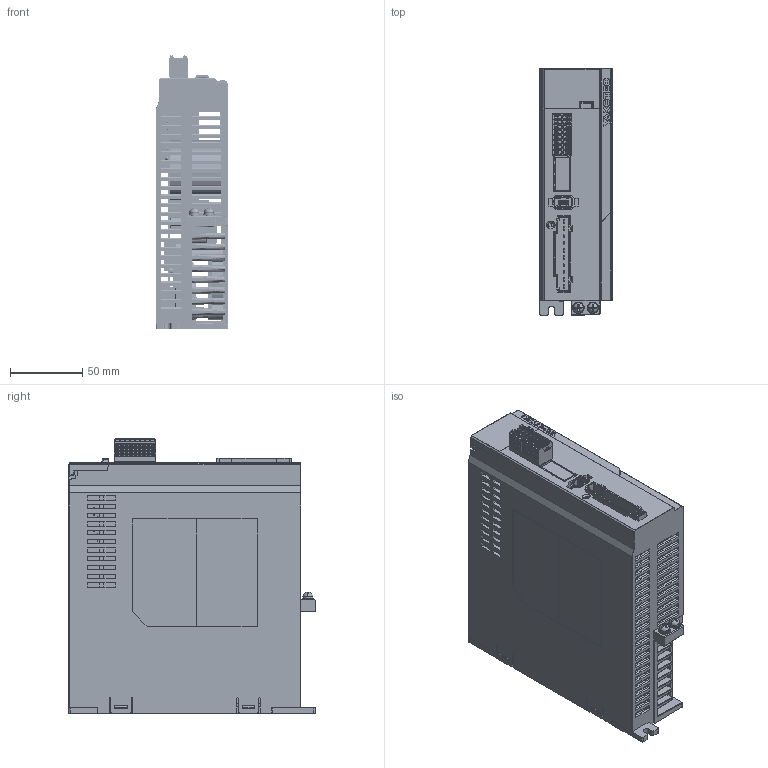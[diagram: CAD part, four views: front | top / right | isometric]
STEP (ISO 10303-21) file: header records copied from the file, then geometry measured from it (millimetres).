
FILE_DESCRIPTION((''),'2;1');
FILE_NAME('AS3-10BAI','2025-08-20T17:27:30',('Admin'),(''),'CREO PARAMETRIC BY PTC INC, 2020074','CREO PARAMETRIC BY PTC INC, 2020074','');
FILE_SCHEMA(('CONFIG_CONTROL_DESIGN'));
Products named in the file (1): AS3-10BAI
Bounding box: 50.2 x 170 x 189.3 mm (x, y, z)
Volume: 509344.2 mm3; surface area: 336920.1 mm2
Topology: 1 solids, 1 shells, 7046 faces, 19438 edges, 12412 vertices
Faces by surface type: plane 4075, cylinder 1873, bspline 415, torus 276, cone 255, sphere 78, extrusion 74
Entity records: 248708 total; most frequent: CARTESIAN_POINT 71614, ORIENTED_EDGE 38784, DIRECTION 33887, EDGE_CURVE 19392, VECTOR 13475, LINE 13401, VERTEX_POINT 12412, AXIS2_PLACEMENT_3D 10206
